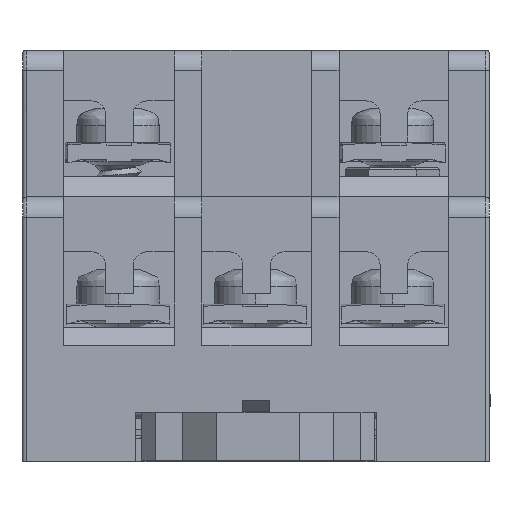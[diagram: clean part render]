
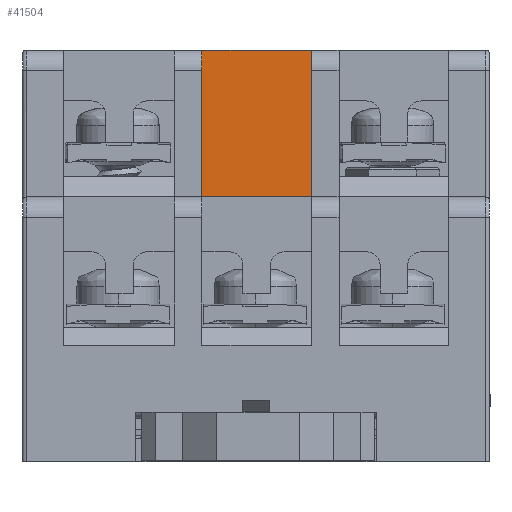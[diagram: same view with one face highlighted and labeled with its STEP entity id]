
A CAD part, left-side view. The second image highlights one B-rep face of the part: STEP entity #41504.
In plain terms, the highlighted planar face has unit normal (-1, 0, 0).
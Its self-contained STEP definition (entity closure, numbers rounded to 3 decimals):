
#2793 = CARTESIAN_POINT ( 'NONE',  ( -18.293, -3.706, 30. ) ) ;
#4490 = CARTESIAN_POINT ( 'NONE',  ( -18.293, -3.706, 30. ) ) ;
#4547 = VERTEX_POINT ( 'NONE', #22616 ) ;
#5709 = VECTOR ( 'NONE', #51473, 1000. ) ;
#8245 = CARTESIAN_POINT ( 'NONE',  ( -18.293, 4.294, 30. ) ) ;
#9392 = LINE ( 'NONE', #2793, #23541 ) ;
#9855 = DIRECTION ( 'NONE',  ( 0., 0., 1. ) ) ;
#10039 = VERTEX_POINT ( 'NONE', #35988 ) ;
#11605 = LINE ( 'NONE', #24201, #50753 ) ;
#13400 = DIRECTION ( 'NONE',  ( 0., 0., -1. ) ) ;
#20662 = EDGE_LOOP ( 'NONE', ( #66477, #21836, #61226, #40812 ) ) ;
#21836 = ORIENTED_EDGE ( 'NONE', *, *, #51966, .T. ) ;
#22616 = CARTESIAN_POINT ( 'NONE',  ( -18.293, 4.294, 30. ) ) ;
#23541 = VECTOR ( 'NONE', #40279, 1000. ) ;
#24201 = CARTESIAN_POINT ( 'NONE',  ( -18.293, -3.706, 19.3 ) ) ;
#27268 = VERTEX_POINT ( 'NONE', #54980 ) ;
#28919 = CARTESIAN_POINT ( 'NONE',  ( -18.293, -3.706, 19.3 ) ) ;
#29715 = VECTOR ( 'NONE', #13400, 1000. ) ;
#31387 = LINE ( 'NONE', #8245, #29715 ) ;
#34884 = DIRECTION ( 'NONE',  ( 0., 0., 1. ) ) ;
#35988 = CARTESIAN_POINT ( 'NONE',  ( -18.293, -3.706, 30. ) ) ;
#37362 = FACE_OUTER_BOUND ( 'NONE', #20662, .T. ) ;
#40279 = DIRECTION ( 'NONE',  ( 0., 1., 0. ) ) ;
#40812 = ORIENTED_EDGE ( 'NONE', *, *, #63262, .T. ) ;
#41504 = ADVANCED_FACE ( 'NONE', ( #37362 ), #46867, .T. ) ;
#41758 = DIRECTION ( 'NONE',  ( -1., 0., 0. ) ) ;
#46116 = CARTESIAN_POINT ( 'NONE',  ( -18.293, 4.294, 19.3 ) ) ;
#46867 = PLANE ( 'NONE',  #58364 ) ;
#48179 = LINE ( 'NONE', #46116, #5709 ) ;
#48692 = EDGE_CURVE ( 'NONE', #52949, #10039, #11605, .T. ) ;
#50753 = VECTOR ( 'NONE', #34884, 1000. ) ;
#51473 = DIRECTION ( 'NONE',  ( 0., -1., 0. ) ) ;
#51966 = EDGE_CURVE ( 'NONE', #10039, #4547, #9392, .T. ) ;
#52949 = VERTEX_POINT ( 'NONE', #28919 ) ;
#54980 = CARTESIAN_POINT ( 'NONE',  ( -18.293, 4.294, 19.3 ) ) ;
#56421 = EDGE_CURVE ( 'NONE', #4547, #27268, #31387, .T. ) ;
#58364 = AXIS2_PLACEMENT_3D ( 'NONE', #4490, #41758, #9855 ) ;
#61226 = ORIENTED_EDGE ( 'NONE', *, *, #56421, .T. ) ;
#63262 = EDGE_CURVE ( 'NONE', #27268, #52949, #48179, .T. ) ;
#66477 = ORIENTED_EDGE ( 'NONE', *, *, #48692, .T. ) ;
